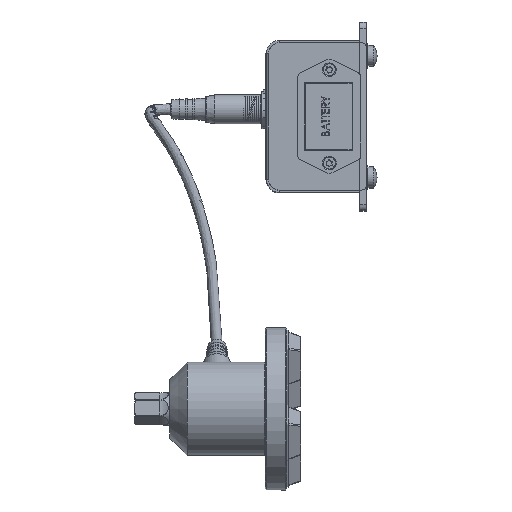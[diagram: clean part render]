
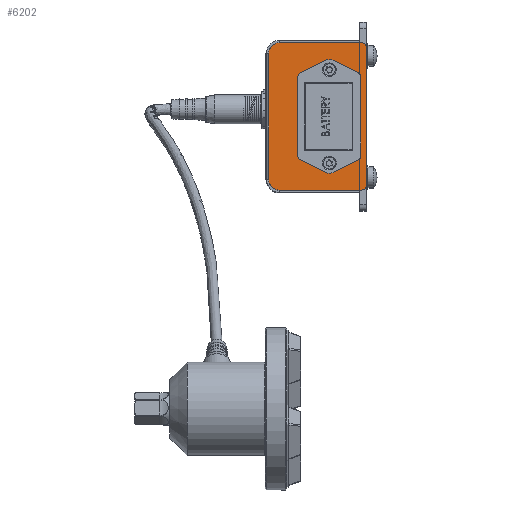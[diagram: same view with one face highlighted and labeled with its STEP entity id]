
A CAD part, top view. The second image highlights one B-rep face of the part: STEP entity #6202.
In plain terms, the highlighted planar face has unit normal (0, 0, 1).
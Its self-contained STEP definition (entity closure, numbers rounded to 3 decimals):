
#314 = LINE ( 'NONE', #38474, #6863 ) ;
#613 = AXIS2_PLACEMENT_3D ( 'NONE', #12890, #24776, #9588 ) ;
#1006 = EDGE_CURVE ( 'NONE', #29354, #42522, #20287, .T. ) ;
#1204 = ORIENTED_EDGE ( 'NONE', *, *, #13996, .F. ) ;
#1634 = EDGE_CURVE ( 'NONE', #10989, #32314, #25625, .T. ) ;
#1757 = DIRECTION ( 'NONE',  ( -1., 0., 0. ) ) ;
#1799 = DIRECTION ( 'NONE',  ( 0., 0., -1. ) ) ;
#2237 = EDGE_LOOP ( 'NONE', ( #28009 ) ) ;
#3977 = ORIENTED_EDGE ( 'NONE', *, *, #1006, .F. ) ;
#4324 = DIRECTION ( 'NONE',  ( 0., 1., 0. ) ) ;
#4676 = CARTESIAN_POINT ( 'NONE',  ( -40., 4.342, 152. ) ) ;
#4963 = EDGE_CURVE ( 'NONE', #27746, #10989, #5675, .T. ) ;
#5675 = LINE ( 'NONE', #35968, #19185 ) ;
#6202 = ADVANCED_FACE ( 'NONE', ( #39555, #40304, #16798, #44029 ), #35752, .T. ) ;
#6291 = AXIS2_PLACEMENT_3D ( 'NONE', #21620, #37012, #14027 ) ;
#6700 = VERTEX_POINT ( 'NONE', #22122 ) ;
#6863 = VECTOR ( 'NONE', #19285, 1000. ) ;
#6948 = CARTESIAN_POINT ( 'NONE',  ( 0., 70.142, 152. ) ) ;
#8184 = DIRECTION ( 'NONE',  ( 0., 0., -1. ) ) ;
#8908 = DIRECTION ( 'NONE',  ( 0., 0., -1. ) ) ;
#9588 = DIRECTION ( 'NONE',  ( -1., 0., 0. ) ) ;
#9821 = EDGE_CURVE ( 'NONE', #41769, #26870, #26342, .T. ) ;
#9950 = DIRECTION ( 'NONE',  ( 0., -1., 0. ) ) ;
#10277 = AXIS2_PLACEMENT_3D ( 'NONE', #17441, #1799, #32870 ) ;
#10555 = CARTESIAN_POINT ( 'NONE',  ( -40., 72.142, 152. ) ) ;
#10989 = VERTEX_POINT ( 'NONE', #17581 ) ;
#11135 = CIRCLE ( 'NONE', #6291, 4.9 ) ;
#12194 = DIRECTION ( 'NONE',  ( -1., 0., 0. ) ) ;
#12543 = DIRECTION ( 'NONE',  ( 0., 0., -1. ) ) ;
#12573 = CARTESIAN_POINT ( 'NONE',  ( -4.5, 55.492, 152. ) ) ;
#12890 = CARTESIAN_POINT ( 'NONE',  ( -17., 16.742, 152. ) ) ;
#13053 = DIRECTION ( 'NONE',  ( 0., 1., 0. ) ) ;
#13367 = LINE ( 'NONE', #28785, #30286 ) ;
#13500 = DIRECTION ( 'NONE',  ( 1., 0., 0. ) ) ;
#13910 = VERTEX_POINT ( 'NONE', #20383 ) ;
#13996 = EDGE_CURVE ( 'NONE', #14213, #45377, #11135, .T. ) ;
#14027 = DIRECTION ( 'NONE',  ( -1., 0., 0. ) ) ;
#14213 = VERTEX_POINT ( 'NONE', #4676 ) ;
#14885 = ORIENTED_EDGE ( 'NONE', *, *, #44729, .F. ) ;
#14927 = EDGE_CURVE ( 'NONE', #47603, #13910, #28645, .T. ) ;
#14933 = CARTESIAN_POINT ( 'NONE',  ( -4.5, 55.492, 152. ) ) ;
#15488 = EDGE_CURVE ( 'NONE', #6700, #6700, #20773, .T. ) ;
#16135 = EDGE_CURVE ( 'NONE', #29354, #32314, #28348, .T. ) ;
#16798 = FACE_BOUND ( 'NONE', #2237, .T. ) ;
#16966 = CARTESIAN_POINT ( 'NONE',  ( -17., 59.742, 152. ) ) ;
#17012 = ORIENTED_EDGE ( 'NONE', *, *, #9821, .F. ) ;
#17441 = CARTESIAN_POINT ( 'NONE',  ( -2., 70.142, 152. ) ) ;
#17503 = ORIENTED_EDGE ( 'NONE', *, *, #4963, .F. ) ;
#17581 = CARTESIAN_POINT ( 'NONE',  ( -2., 72.142, 152. ) ) ;
#18366 = CARTESIAN_POINT ( 'NONE',  ( -19.125, 59.742, 152. ) ) ;
#19185 = VECTOR ( 'NONE', #35506, 1000. ) ;
#19285 = DIRECTION ( 'NONE',  ( 0., 1., 0. ) ) ;
#19339 = EDGE_CURVE ( 'NONE', #22799, #27746, #30467, .T. ) ;
#19778 = AXIS2_PLACEMENT_3D ( 'NONE', #16966, #8908, #12194 ) ;
#19902 = VECTOR ( 'NONE', #43932, 1000. ) ;
#19938 = ORIENTED_EDGE ( 'NONE', *, *, #26246, .F. ) ;
#20287 = CIRCLE ( 'NONE', #37174, 2. ) ;
#20321 = ORIENTED_EDGE ( 'NONE', *, *, #44882, .F. ) ;
#20383 = CARTESIAN_POINT ( 'NONE',  ( -29.5, 20.992, 152. ) ) ;
#20773 = CIRCLE ( 'NONE', #613, 2.125 ) ;
#21620 = CARTESIAN_POINT ( 'NONE',  ( -40., 9.242, 152. ) ) ;
#22054 = EDGE_CURVE ( 'NONE', #42522, #14213, #13367, .T. ) ;
#22122 = CARTESIAN_POINT ( 'NONE',  ( -19.125, 16.742, 152. ) ) ;
#22799 = VERTEX_POINT ( 'NONE', #29128 ) ;
#22936 = EDGE_LOOP ( 'NONE', ( #25684, #19938, #17012, #20321 ) ) ;
#23221 = AXIS2_PLACEMENT_3D ( 'NONE', #35201, #8184, #34460 ) ;
#24678 = EDGE_LOOP ( 'NONE', ( #14885, #1204, #33475, #3977, #30775, #49644, #17503, #42853 ) ) ;
#24769 = VECTOR ( 'NONE', #9950, 1000. ) ;
#24776 = DIRECTION ( 'NONE',  ( 0., 0., -1. ) ) ;
#25625 = CIRCLE ( 'NONE', #10277, 2. ) ;
#25684 = ORIENTED_EDGE ( 'NONE', *, *, #14927, .F. ) ;
#26044 = LINE ( 'NONE', #40681, #47888 ) ;
#26246 = EDGE_CURVE ( 'NONE', #26870, #47603, #26044, .T. ) ;
#26342 = LINE ( 'NONE', #14933, #47325 ) ;
#26870 = VERTEX_POINT ( 'NONE', #12573 ) ;
#27392 = CARTESIAN_POINT ( 'NONE',  ( 0., 6.342, 152. ) ) ;
#27746 = VERTEX_POINT ( 'NONE', #10555 ) ;
#28009 = ORIENTED_EDGE ( 'NONE', *, *, #15488, .T. ) ;
#28348 = LINE ( 'NONE', #49164, #19902 ) ;
#28645 = LINE ( 'NONE', #44003, #24769 ) ;
#28785 = CARTESIAN_POINT ( 'NONE',  ( 0., 4.342, 152. ) ) ;
#29128 = CARTESIAN_POINT ( 'NONE',  ( -44.9, 67.242, 152. ) ) ;
#29354 = VERTEX_POINT ( 'NONE', #27392 ) ;
#29522 = AXIS2_PLACEMENT_3D ( 'NONE', #36248, #47335, #13500 ) ;
#30286 = VECTOR ( 'NONE', #1757, 1000. ) ;
#30467 = CIRCLE ( 'NONE', #23221, 4.9 ) ;
#30599 = CARTESIAN_POINT ( 'NONE',  ( -2., 6.342, 152. ) ) ;
#30775 = ORIENTED_EDGE ( 'NONE', *, *, #16135, .T. ) ;
#31113 = VECTOR ( 'NONE', #48721, 1000. ) ;
#32301 = CARTESIAN_POINT ( 'NONE',  ( -29.5, 55.492, 152. ) ) ;
#32314 = VERTEX_POINT ( 'NONE', #6948 ) ;
#32870 = DIRECTION ( 'NONE',  ( 0., 1., 0. ) ) ;
#33475 = ORIENTED_EDGE ( 'NONE', *, *, #22054, .F. ) ;
#34460 = DIRECTION ( 'NONE',  ( -1., 0., 0. ) ) ;
#35201 = CARTESIAN_POINT ( 'NONE',  ( -40., 67.242, 152. ) ) ;
#35506 = DIRECTION ( 'NONE',  ( 1., 0., 0. ) ) ;
#35752 = PLANE ( 'NONE',  #29522 ) ;
#35968 = CARTESIAN_POINT ( 'NONE',  ( 0., 72.142, 152. ) ) ;
#36248 = CARTESIAN_POINT ( 'NONE',  ( -45., 67.242, 152. ) ) ;
#36991 = ORIENTED_EDGE ( 'NONE', *, *, #44811, .T. ) ;
#37012 = DIRECTION ( 'NONE',  ( 0., 0., -1. ) ) ;
#37174 = AXIS2_PLACEMENT_3D ( 'NONE', #30599, #12543, #13053 ) ;
#37563 = VERTEX_POINT ( 'NONE', #18366 ) ;
#38474 = CARTESIAN_POINT ( 'NONE',  ( -44.9, 67.242, 152. ) ) ;
#38714 = CARTESIAN_POINT ( 'NONE',  ( -4.5, 20.992, 152. ) ) ;
#39555 = FACE_BOUND ( 'NONE', #22936, .T. ) ;
#40304 = FACE_BOUND ( 'NONE', #40613, .T. ) ;
#40613 = EDGE_LOOP ( 'NONE', ( #36991 ) ) ;
#40681 = CARTESIAN_POINT ( 'NONE',  ( -29.5, 55.492, 152. ) ) ;
#41206 = CARTESIAN_POINT ( 'NONE',  ( -4.5, 20.992, 152. ) ) ;
#41769 = VERTEX_POINT ( 'NONE', #38714 ) ;
#42522 = VERTEX_POINT ( 'NONE', #44115 ) ;
#42853 = ORIENTED_EDGE ( 'NONE', *, *, #19339, .F. ) ;
#43932 = DIRECTION ( 'NONE',  ( 0., 1., 0. ) ) ;
#44003 = CARTESIAN_POINT ( 'NONE',  ( -29.5, 20.992, 152. ) ) ;
#44029 = FACE_OUTER_BOUND ( 'NONE', #24678, .T. ) ;
#44115 = CARTESIAN_POINT ( 'NONE',  ( -2., 4.342, 152. ) ) ;
#44729 = EDGE_CURVE ( 'NONE', #45377, #22799, #314, .T. ) ;
#44759 = CIRCLE ( 'NONE', #19778, 2.125 ) ;
#44811 = EDGE_CURVE ( 'NONE', #37563, #37563, #44759, .T. ) ;
#44882 = EDGE_CURVE ( 'NONE', #13910, #41769, #48264, .T. ) ;
#45377 = VERTEX_POINT ( 'NONE', #45962 ) ;
#45962 = CARTESIAN_POINT ( 'NONE',  ( -44.9, 9.242, 152. ) ) ;
#47325 = VECTOR ( 'NONE', #4324, 1000. ) ;
#47335 = DIRECTION ( 'NONE',  ( 0., 0., 1. ) ) ;
#47603 = VERTEX_POINT ( 'NONE', #32301 ) ;
#47888 = VECTOR ( 'NONE', #49227, 1000. ) ;
#48264 = LINE ( 'NONE', #41206, #31113 ) ;
#48721 = DIRECTION ( 'NONE',  ( 1., 0., 0. ) ) ;
#49164 = CARTESIAN_POINT ( 'NONE',  ( 0., 9.242, 152. ) ) ;
#49227 = DIRECTION ( 'NONE',  ( -1., 0., 0. ) ) ;
#49644 = ORIENTED_EDGE ( 'NONE', *, *, #1634, .F. ) ;
